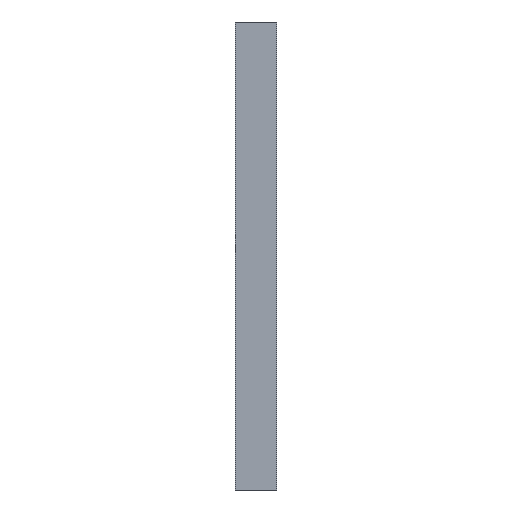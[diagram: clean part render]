
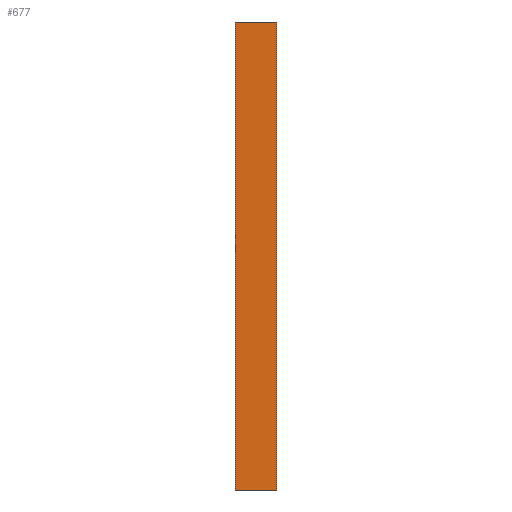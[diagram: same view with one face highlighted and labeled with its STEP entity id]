
A CAD part, left-side view. The second image highlights one B-rep face of the part: STEP entity #677.
In plain terms, the highlighted planar face has unit normal (-1, 0, 0).
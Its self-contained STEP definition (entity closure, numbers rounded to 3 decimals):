
#12 = CARTESIAN_POINT ( 'NONE',  ( 0., 4., 0. ) ) ;
#27 = EDGE_CURVE ( 'NONE', #733, #494, #219, .T. ) ;
#62 = DIRECTION ( 'NONE',  ( 0., 0., -1. ) ) ;
#80 = VECTOR ( 'NONE', #471, 1000. ) ;
#84 = CARTESIAN_POINT ( 'NONE',  ( 0., 4., 0. ) ) ;
#95 = EDGE_CURVE ( 'NONE', #733, #806, #472, .T. ) ;
#102 = ORIENTED_EDGE ( 'NONE', *, *, #95, .F. ) ;
#185 = LINE ( 'NONE', #415, #80 ) ;
#219 = LINE ( 'NONE', #336, #646 ) ;
#232 = AXIS2_PLACEMENT_3D ( 'NONE', #792, #862, #62 ) ;
#249 = EDGE_CURVE ( 'NONE', #806, #454, #635, .T. ) ;
#280 = DIRECTION ( 'NONE',  ( 0., -1., 0. ) ) ;
#336 = CARTESIAN_POINT ( 'NONE',  ( 0., 4., -45. ) ) ;
#355 = CARTESIAN_POINT ( 'NONE',  ( 0., 4., -45. ) ) ;
#381 = CARTESIAN_POINT ( 'NONE',  ( 0., 0., -45. ) ) ;
#393 = ORIENTED_EDGE ( 'NONE', *, *, #776, .T. ) ;
#415 = CARTESIAN_POINT ( 'NONE',  ( 0., 0., 0. ) ) ;
#454 = VERTEX_POINT ( 'NONE', #565 ) ;
#468 = DIRECTION ( 'NONE',  ( 0., 0., 1. ) ) ;
#471 = DIRECTION ( 'NONE',  ( 0., 0., 1. ) ) ;
#472 = LINE ( 'NONE', #84, #794 ) ;
#494 = VERTEX_POINT ( 'NONE', #381 ) ;
#547 = CARTESIAN_POINT ( 'NONE',  ( 0., 4., 0. ) ) ;
#565 = CARTESIAN_POINT ( 'NONE',  ( 0., 0., 0. ) ) ;
#590 = ORIENTED_EDGE ( 'NONE', *, *, #27, .T. ) ;
#635 = LINE ( 'NONE', #547, #657 ) ;
#646 = VECTOR ( 'NONE', #801, 1000. ) ;
#657 = VECTOR ( 'NONE', #280, 1000. ) ;
#660 = ORIENTED_EDGE ( 'NONE', *, *, #249, .F. ) ;
#677 = ADVANCED_FACE ( 'NONE', ( #810 ), #728, .F. ) ;
#714 = EDGE_LOOP ( 'NONE', ( #393, #660, #102, #590 ) ) ;
#728 = PLANE ( 'NONE',  #232 ) ;
#733 = VERTEX_POINT ( 'NONE', #355 ) ;
#776 = EDGE_CURVE ( 'NONE', #494, #454, #185, .T. ) ;
#792 = CARTESIAN_POINT ( 'NONE',  ( 0., 4., 0. ) ) ;
#794 = VECTOR ( 'NONE', #468, 1000. ) ;
#801 = DIRECTION ( 'NONE',  ( 0., -1., 0. ) ) ;
#806 = VERTEX_POINT ( 'NONE', #12 ) ;
#810 = FACE_OUTER_BOUND ( 'NONE', #714, .T. ) ;
#862 = DIRECTION ( 'NONE',  ( 1., 0., 0. ) ) ;
